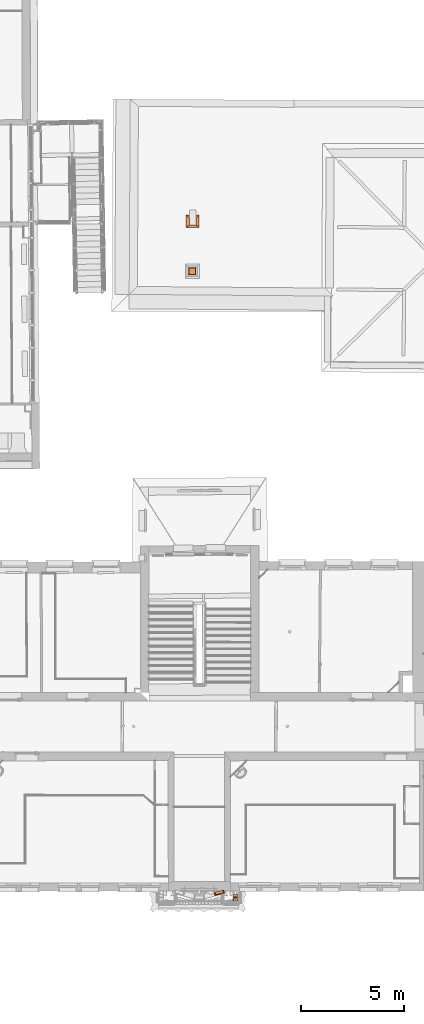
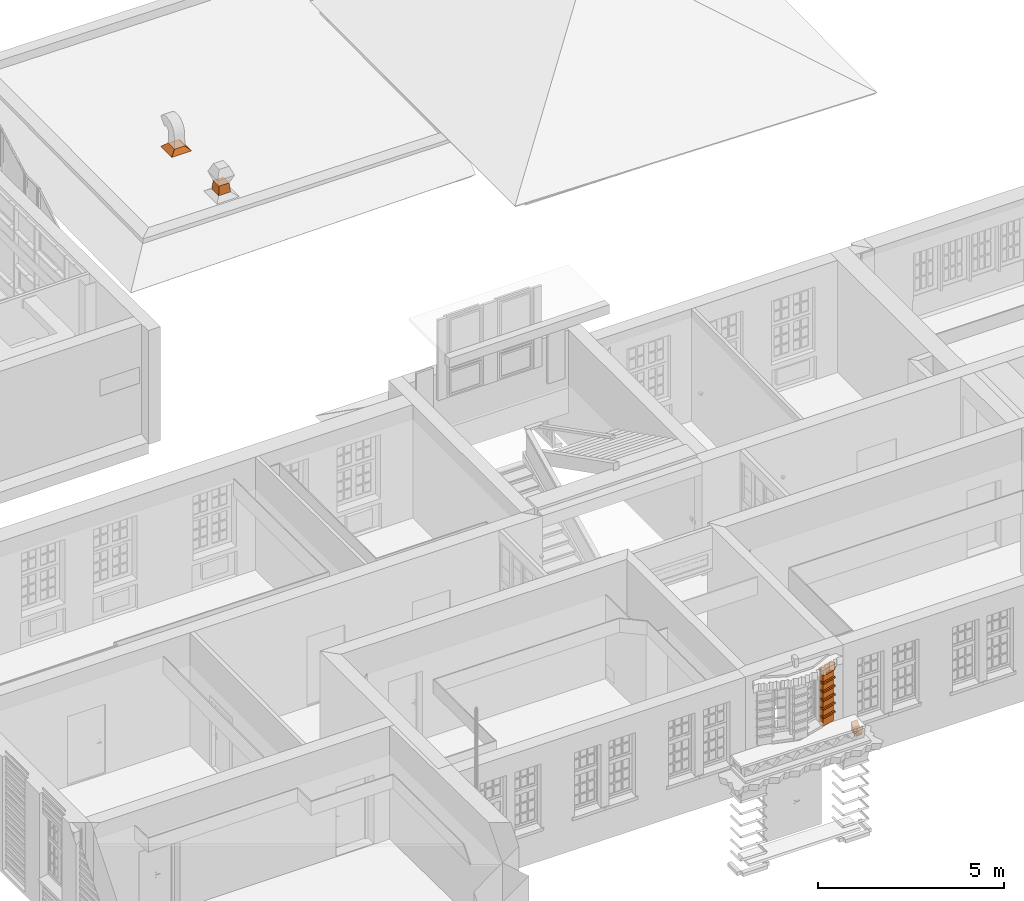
# One storey, part 153 of 158: 16 proxies.
"""IFC2X3 building model written with IfcOpenShell, lengths in metres."""

from ifc_helpers import new_model, entity, si_unit, converted_unit, derived_unit, money_unit, direction, frame, origin_with_axes, place, context, subcontext, project, spatial, faceted_brep, material, type_object, element, save


model = new_model("IFC2X3")

# Units and contexts
model_context = context("Model", 3, precision=1e-05, world=origin_with_axes(), true_north=direction((0.0, 1.0)))
body_context = subcontext(model_context, "Body", "Model", "MODEL_VIEW")
ifc_project = project(units=[si_unit("LENGTHUNIT", "METRE"), si_unit("AREAUNIT", "SQUARE_METRE"), si_unit("VOLUMEUNIT", "CUBIC_METRE"), converted_unit("PLANEANGLEUNIT", "DEGREE", entity("IfcPlaneAngleMeasure", 0.0174532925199), si_unit("PLANEANGLEUNIT", "RADIAN"), dimensions=[0, 0, 0, 0, 0, 0, 0]), money_unit("EUR"), converted_unit("TIMEUNIT", "Year", entity("IfcTimeMeasure", 31556926.0), si_unit("TIMEUNIT", "SECOND"), dimensions=[0, 0, 1, 0, 0, 0, 0]), si_unit("MASSUNIT", "GRAM", prefix="KILO"), si_unit("THERMODYNAMICTEMPERATUREUNIT", "DEGREE_CELSIUS"), si_unit("LUMINOUSINTENSITYUNIT", "LUMEN"), si_unit("ENERGYUNIT", "JOULE", prefix="MEGA"), derived_unit("THERMALCONDUCTANCEUNIT", [(si_unit("POWERUNIT", "WATT"), 1), (si_unit("LENGTHUNIT", "METRE"), -1), (si_unit("THERMODYNAMICTEMPERATUREUNIT", "KELVIN"), -1)]), derived_unit("SPECIFICHEATCAPACITYUNIT", [(si_unit("ENERGYUNIT", "JOULE"), 1), (si_unit("MASSUNIT", "GRAM", prefix="KILO"), -1), (si_unit("THERMODYNAMICTEMPERATUREUNIT", "KELVIN"), -1)]), derived_unit("MASSDENSITYUNIT", [(si_unit("MASSUNIT", "GRAM", prefix="KILO"), 1), (si_unit("VOLUMEUNIT", "CUBIC_METRE"), -1)])], contexts=[model_context])

# Site, building, storey
site_placement = place(None, origin_with_axes())
site = spatial("IfcSite", under=ifc_project, at=site_placement, Name="Gelände", CompositionType="ELEMENT")
building_placement = place(site_placement, origin_with_axes())
building = spatial("IfcBuilding", under=site, at=building_placement, Name="Gebäude", CompositionType="ELEMENT")
storey_placement = place(building_placement, origin_with_axes())
storey = spatial("IfcBuildingStorey", under=building, at=storey_placement, Name="ERDGESCHOSS", CompositionType="ELEMENT", Elevation=0.0)

# Proxies
ifc_material = material(Name="01_ALLGEMEIN - BAUTEIL")
building_element_proxy_type = type_object("IfcBuildingElementProxyType", Name="01_ALLGEMEIN - BAUTEIL", PredefinedType="NOTDEFINED")
proxy_1_placement = place(storey_placement, frame((-6.19547985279, 9.92608158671, 1.26897611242), z_axis=(0.0, 0.0, 1.0), x_axis=(-0.968191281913, -0.250211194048, 0.0)))
element("IfcBuildingElementProxy", 1, at=proxy_1_placement, inside=storey, type_object=building_element_proxy_type, material=ifc_material, Name="Morph-174", context=body_context, shape_type="Brep", body=[
    faceted_brep([(0.405369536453, -0.125335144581, 0.282016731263), (0.0, -0.125335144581, 0.282016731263), (0.0, -0.125335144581, 0.0), (0.405369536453, -0.125335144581, 0.0), (0.405369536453, 0.0, 0.282016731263), (0.0, 0.0, 0.282016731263), (0.0, 0.0, 0.0), (0.405369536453, 0.0, 0.0)], [[[0, 1, 2, 3]], [[0, 4, 5, 1]], [[1, 5, 6, 2]], [[7, 3, 2, 6]], [[3, 7, 4, 0]], [[6, 5, 4, 7]]]),
])
proxy_2_placement = place(storey_placement, frame((-6.58795510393, 9.82465359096, 1.55099284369), z_axis=(0.0, 0.0, 1.0), x_axis=(-0.968191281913, -0.250211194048, 0.0)))
element("IfcBuildingElementProxy", 2, at=proxy_2_placement, inside=storey, type_object=building_element_proxy_type, material=ifc_material, Name="Morph-175", context=body_context, shape_type="Brep", body=[
    faceted_brep([(0.02, -0.125335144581, 0.05), (0.02, 0.05, 0.05), (-0.425369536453, 0.05, 0.05), (-0.425369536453, -0.125335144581, 0.05), (0.02, -0.125335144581, 0.0), (0.02, 0.05, 0.0), (-0.425369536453, 0.05, 0.0), (-0.425369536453, -0.125335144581, 0.0)], [[[0, 1, 2, 3]], [[4, 5, 1, 0]], [[6, 2, 1, 5]], [[3, 2, 6, 7]], [[0, 3, 7, 4]], [[5, 4, 7, 6]]]),
])
proxy_3_placement = place(storey_placement, frame((-6.19547985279, 9.92608158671, 1.83300957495), z_axis=(0.0, 0.0, 1.0), x_axis=(-0.968191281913, -0.250211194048, 0.0)))
element("IfcBuildingElementProxy", 3, at=proxy_3_placement, inside=storey, type_object=building_element_proxy_type, material=ifc_material, Name="Morph-176", context=body_context, shape_type="Brep", body=[
    faceted_brep([(0.405369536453, -0.125335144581, 0.0), (0.0, -0.125335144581, 0.0), (0.0, -0.125335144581, -0.232016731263), (0.405369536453, -0.125335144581, -0.232016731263), (0.0, 0.0, 0.0), (0.405369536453, 0.0, 0.0), (0.0, 0.0, -0.232016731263), (0.405369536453, 0.0, -0.232016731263)], [[[0, 1, 2, 3]], [[4, 1, 0, 5]], [[1, 4, 6, 2]], [[2, 6, 7, 3]], [[3, 7, 5, 0]], [[5, 7, 6, 4]]]),
])
proxy_4_placement = place(storey_placement, frame((-6.19547985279, 9.92608158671, 1.88300957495), z_axis=(0.0, 0.0, 1.0), x_axis=(-0.968191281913, -0.250211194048, 0.0)))
element("IfcBuildingElementProxy", 4, at=proxy_4_placement, inside=storey, type_object=building_element_proxy_type, material=ifc_material, Name="Morph-177", context=body_context, shape_type="Brep", body=[
    faceted_brep([(-0.02, -0.125335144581, -0.05), (-0.02, 0.05, -0.05), (0.425369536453, 0.05, -0.05), (0.425369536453, -0.125335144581, -0.05), (-0.02, -0.125335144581, 0.0), (-0.02, 0.05, 0.0), (0.425369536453, 0.05, 0.0), (0.425369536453, -0.125335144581, 0.0)], [[[0, 1, 2, 3]], [[4, 5, 1, 0]], [[6, 2, 1, 5]], [[3, 2, 6, 7]], [[7, 4, 0, 3]], [[5, 4, 7, 6]]]),
])
proxy_5_placement = place(storey_placement, frame((-6.19547985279, 9.92608158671, 2.11502630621), z_axis=(0.0, 0.0, 1.0), x_axis=(-0.968191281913, -0.250211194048, 0.0)))
element("IfcBuildingElementProxy", 5, at=proxy_5_placement, inside=storey, type_object=building_element_proxy_type, material=ifc_material, Name="Morph-178", context=body_context, shape_type="Brep", body=[
    faceted_brep([(0.405369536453, -0.125335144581, 0.0), (0.0, -0.125335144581, 0.0), (0.0, -0.125335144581, -0.232016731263), (0.405369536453, -0.125335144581, -0.232016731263), (0.0, 0.0, 0.0), (0.405369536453, 0.0, 0.0), (0.0, 0.0, -0.232016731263), (0.405369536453, 0.0, -0.232016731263)], [[[0, 1, 2, 3]], [[4, 1, 0, 5]], [[1, 4, 6, 2]], [[2, 6, 7, 3]], [[3, 7, 5, 0]], [[5, 7, 6, 4]]]),
])
proxy_6_placement = place(storey_placement, frame((-6.19547985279, 9.92608158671, 2.16502630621), z_axis=(0.0, 0.0, 1.0), x_axis=(-0.968191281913, -0.250211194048, 0.0)))
element("IfcBuildingElementProxy", 6, at=proxy_6_placement, inside=storey, type_object=building_element_proxy_type, material=ifc_material, Name="Morph-179", context=body_context, shape_type="Brep", body=[
    faceted_brep([(-0.02, -0.125335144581, -0.05), (-0.02, 0.05, -0.05), (0.425369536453, 0.05, -0.05), (0.425369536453, -0.125335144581, -0.05), (-0.02, -0.125335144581, 0.0), (-0.02, 0.05, 0.0), (0.425369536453, 0.05, 0.0), (0.425369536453, -0.125335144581, 0.0)], [[[0, 1, 2, 3]], [[4, 5, 1, 0]], [[6, 2, 1, 5]], [[3, 2, 6, 7]], [[7, 4, 0, 3]], [[5, 4, 7, 6]]]),
])
proxy_7_placement = place(storey_placement, frame((-6.19547985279, 9.92608158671, 2.39704303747), z_axis=(0.0, 0.0, 1.0), x_axis=(-0.968191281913, -0.250211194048, 0.0)))
element("IfcBuildingElementProxy", 7, at=proxy_7_placement, inside=storey, type_object=building_element_proxy_type, material=ifc_material, Name="Morph-180", context=body_context, shape_type="Brep", body=[
    faceted_brep([(0.405369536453, -0.125335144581, 0.0), (0.0, -0.125335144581, 0.0), (0.0, -0.125335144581, -0.232016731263), (0.405369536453, -0.125335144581, -0.232016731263), (0.0, 0.0, 0.0), (0.405369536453, 0.0, 0.0), (0.0, 0.0, -0.232016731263), (0.405369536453, 0.0, -0.232016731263)], [[[0, 1, 2, 3]], [[4, 1, 0, 5]], [[1, 4, 6, 2]], [[2, 6, 7, 3]], [[3, 7, 5, 0]], [[5, 7, 6, 4]]]),
])
proxy_8_placement = place(storey_placement, frame((-6.19547985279, 9.92608158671, 2.44704303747), z_axis=(0.0, 0.0, 1.0), x_axis=(-0.968191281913, -0.250211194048, 0.0)))
element("IfcBuildingElementProxy", 8, at=proxy_8_placement, inside=storey, type_object=building_element_proxy_type, material=ifc_material, Name="Morph-181", context=body_context, shape_type="Brep", body=[
    faceted_brep([(-0.02, -0.125335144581, -0.05), (-0.02, 0.05, -0.05), (0.425369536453, 0.05, -0.05), (0.425369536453, -0.125335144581, -0.05), (-0.02, -0.125335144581, 0.0), (-0.02, 0.05, 0.0), (0.425369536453, 0.05, 0.0), (0.425369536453, -0.125335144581, 0.0)], [[[0, 1, 2, 3]], [[4, 5, 1, 0]], [[6, 2, 1, 5]], [[3, 2, 6, 7]], [[7, 4, 0, 3]], [[5, 4, 7, 6]]]),
])
proxy_9_placement = place(storey_placement, frame((-6.19547985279, 9.92608158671, 2.67905976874), z_axis=(0.0, 0.0, 1.0), x_axis=(-0.968191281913, -0.250211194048, 0.0)))
element("IfcBuildingElementProxy", 9, at=proxy_9_placement, inside=storey, type_object=building_element_proxy_type, material=ifc_material, Name="Morph-182", context=body_context, shape_type="Brep", body=[
    faceted_brep([(0.405369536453, -0.125335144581, 0.0), (0.0, -0.125335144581, 0.0), (0.0, -0.125335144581, -0.232016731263), (0.405369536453, -0.125335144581, -0.232016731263), (0.0, 0.0, 0.0), (0.405369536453, 0.0, 0.0), (0.0, 0.0, -0.232016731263), (0.405369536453, 0.0, -0.232016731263)], [[[0, 1, 2, 3]], [[4, 1, 0, 5]], [[1, 4, 6, 2]], [[2, 6, 7, 3]], [[3, 7, 5, 0]], [[5, 7, 6, 4]]]),
])
proxy_10_placement = place(storey_placement, frame((-6.19547985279, 9.92608158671, 2.72905976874), z_axis=(0.0, 0.0, 1.0), x_axis=(-0.968191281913, -0.250211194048, 0.0)))
element("IfcBuildingElementProxy", 10, at=proxy_10_placement, inside=storey, type_object=building_element_proxy_type, material=ifc_material, Name="Morph-183", context=body_context, shape_type="Brep", body=[
    faceted_brep([(-0.02, -0.125335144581, -0.05), (-0.02, 0.05, -0.05), (0.425369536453, 0.05, -0.05), (0.425369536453, -0.125335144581, -0.05), (-0.02, -0.125335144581, 0.0), (-0.02, 0.05, 0.0), (0.425369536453, 0.05, 0.0), (0.425369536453, -0.125335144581, 0.0)], [[[0, 1, 2, 3]], [[4, 5, 1, 0]], [[6, 2, 1, 5]], [[3, 2, 6, 7]], [[7, 4, 0, 3]], [[5, 4, 7, 6]]]),
])
proxy_11_placement = place(storey_placement, frame((-6.19547985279, 9.92608158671, 2.9610765), z_axis=(0.0, 0.0, 1.0), x_axis=(-0.968191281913, -0.250211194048, 0.0)))
element("IfcBuildingElementProxy", 11, at=proxy_11_placement, inside=storey, type_object=building_element_proxy_type, material=ifc_material, Name="Morph-184", context=body_context, shape_type="Brep", body=[
    faceted_brep([(0.405369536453, -0.125335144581, 0.0), (0.0, -0.125335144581, 0.0), (0.0, -0.125335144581, -0.232016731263), (0.405369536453, -0.125335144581, -0.232016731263), (0.0, 0.0, 0.0), (0.405369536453, 0.0, 0.0), (0.0, 0.0, -0.232016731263), (0.405369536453, 0.0, -0.232016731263)], [[[0, 1, 2, 3]], [[4, 1, 0, 5]], [[1, 4, 6, 2]], [[2, 6, 7, 3]], [[3, 7, 5, 0]], [[5, 7, 6, 4]]]),
])
proxy_12_placement = place(storey_placement, frame((-6.14707028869, 9.93859214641, 3.15518811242), z_axis=(0.0, 0.0, 1.0), x_axis=(-0.968191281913, -0.250211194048, 0.0)))
element("IfcBuildingElementProxy", 12, at=proxy_12_placement, inside=storey, type_object=building_element_proxy_type, material=ifc_material, Name="Morph-185", context=body_context, shape_type="Brep", body=[
    faceted_brep([(0.505369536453, 0.05, 0.0), (0.0, 0.05, 0.0), (0.0, -0.125335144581, 0.0), (0.505369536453, -0.125335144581, 0.0), (0.05, 0.05, -0.194111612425), (0.455369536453, 0.05, -0.194111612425), (0.05, -0.125335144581, -0.194111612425), (0.455369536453, -0.125335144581, -0.194111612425)], [[[0, 1, 2, 3]], [[4, 1, 0, 5]], [[6, 2, 1, 4]], [[3, 2, 6, 7]], [[7, 5, 0, 3]], [[5, 7, 6, 4]]]),
])
proxy_13_placement = place(storey_placement, frame((-7.86297468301, 42.9497232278, 0.716725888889), z_axis=(0.0, 0.0, 1.0), x_axis=(1.0, 0.0, 0.0)))
element("IfcBuildingElementProxy", 13, at=proxy_13_placement, inside=storey, type_object=building_element_proxy_type, material=ifc_material, Name="Morph-287", context=body_context, shape_type="Brep", body=[
    faceted_brep([(-0.15331986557, -0.594292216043, 0.0), (-0.15331986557, 0.0, 0.0), (0.465295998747, 0.0, 0.0), (0.465295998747, -0.594292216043, 0.0), (0.0, -0.48415235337, 0.150077), (0.0, -0.14068700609, 0.150077), (0.321959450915, -0.14068700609, 0.150077), (0.321959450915, -0.48415235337, 0.150077)], [[[0, 1, 2, 3]], [[1, 0, 4, 5]], [[1, 5, 6, 2]], [[6, 7, 3, 2]], [[4, 0, 3, 7]], [[5, 4, 7, 6]]]),
])
proxy_14_placement = place(storey_placement, frame((-7.97703067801, 40.4776661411, 0.443682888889), z_axis=(0.0, 0.0, 1.0), x_axis=(1.0, 0.0, 0.0)))
element("IfcBuildingElementProxy", 14, at=proxy_14_placement, inside=storey, type_object=building_element_proxy_type, material=ifc_material, Name="Morph-294", context=body_context, shape_type="Brep", body=[
    faceted_brep([(0.0759215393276, -0.451296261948, 0.386771), (0.105921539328, -0.421296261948, 0.676382), (0.105921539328, -0.105921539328, 0.676382), (0.0759215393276, -0.0759215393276, 0.386771), (0.447273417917, -0.451296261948, 0.386771), (0.417273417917, -0.421296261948, 0.676382), (0.417273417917, -0.105921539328, 0.676382), (0.447273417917, -0.0759215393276, 0.386771)], [[[0, 1, 2, 3]], [[1, 0, 4, 5]], [[2, 1, 5, 6]], [[3, 2, 6, 7]], [[0, 3, 7, 4]], [[6, 5, 4, 7]]]),
])
proxy_15_placement = place(storey_placement, frame((-5.7645872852, 10.1518174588, 0.8259985), z_axis=(0.0, 0.0, 1.0), x_axis=(0.0, 1.0, 0.0)))
element("IfcBuildingElementProxy", 15, at=proxy_15_placement, inside=storey, type_object=building_element_proxy_type, material=ifc_material, Name="Morph-302", context=body_context, shape_type="Brep", body=[
    faceted_brep([(-0.46956133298, -0.200000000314, 0.0), (-0.46956133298, -0.244082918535, 0.19807), (-0.619689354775, -0.200000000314, 0.0), (-0.440730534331, -0.235806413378, 0.175572), (-0.46956133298, -0.0440829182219, 0.19807), (-0.619689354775, 0.0, 0.0), (-0.46956133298, -0.0440829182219, 0.0), (-0.440730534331, -0.0358064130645, 0.0), (-0.309844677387, -0.0628254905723, 0.0), (-0.309844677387, -0.200000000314, 0.0), (-0.440730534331, -0.200000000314, 0.0), (-0.440730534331, -0.0358064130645, 0.175572), (-0.309844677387, -0.0628254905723, 0.286749), (-0.309844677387, -0.262825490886, 0.286749)], [[[0, 1, 2]], [[1, 0, 3]], [[2, 1, 4]], [[0, 2, 5, 6, 7, 8, 9, 10]], [[3, 0, 10]], [[4, 1, 3]], [[2, 4, 5]], [[4, 6, 5]], [[6, 4, 11, 7]], [[7, 11, 12, 8]], [[13, 9, 8, 12]], [[3, 10, 9]], [[4, 3, 11]], [[11, 3, 12]], [[13, 3, 9]], [[3, 13, 12]]]),
])
proxy_16_placement = place(storey_placement, origin_with_axes())
element("IfcBuildingElementProxy", 16, at=proxy_16_placement, inside=storey, type_object=building_element_proxy_type, material=ifc_material, Name="Morph-302", context=body_context, shape_type="Brep", body=[
    faceted_brep([(-5.70176179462, 9.52253947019, 0.8259985), (-5.70176179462, 9.52253947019, 1.1127475), (-5.72878087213, 9.65342532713, 1.0015705), (-5.72878087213, 9.65342532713, 0.8259985), (-5.56458728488, 9.52253947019, 0.8259985), (-5.50176179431, 9.52253947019, 1.1127475), (-5.52878087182, 9.65342532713, 1.0015705), (-5.72050436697, 9.68225612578, 0.8259985), (-5.72050436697, 9.68225612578, 1.0240685), (-5.56458728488, 9.68225612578, 0.8259985), (-5.56458728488, 9.65342532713, 0.8259985), (-5.52050436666, 9.68225612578, 1.0240685)], [[[0, 1, 2, 3]], [[1, 0, 4, 5]], [[2, 1, 6]], [[7, 3, 2, 8]], [[0, 3, 7, 9, 10, 4]], [[4, 6, 5]], [[1, 5, 6]], [[8, 2, 6]], [[7, 8, 11, 9]], [[10, 9, 6]], [[4, 10, 6]], [[8, 6, 11]], [[9, 11, 6]]]),
])

save(model, "model.ifc")
